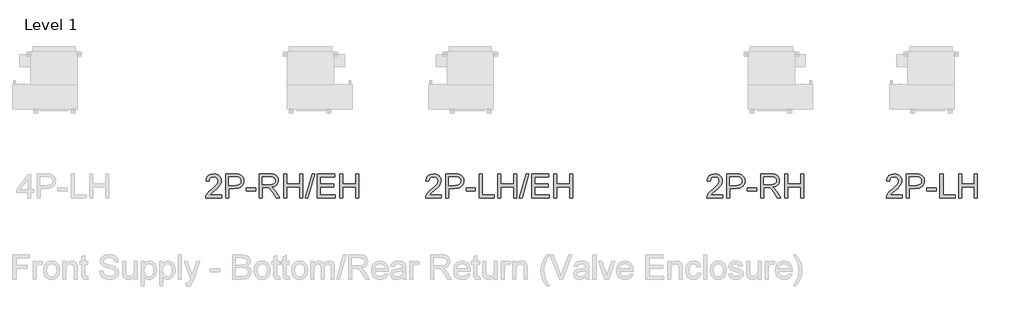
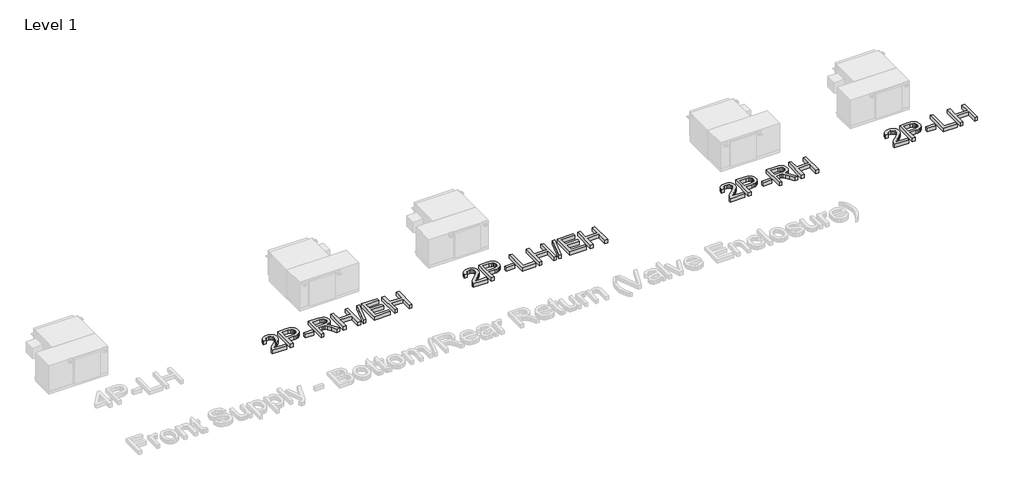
# One storey, part 5 of 5: 4 proxies.
"""IFC4 building model written with IfcOpenShell, lengths in millimetres."""

from ifc_helpers import new_model, si_unit, origin, origin_with_axes, place, context, project, spatial, polyline, outline, extrude, element, save

model = new_model("IFC4")

# Units and contexts
model_context = context("Model", 3, world=origin())
ifc_project = project(units=[si_unit("LENGTHUNIT", "METRE", prefix="MILLI")], contexts=[model_context])

# Site, building, storey
site = spatial("IfcSite", under=ifc_project)
building = spatial("IfcBuilding", under=site)
storey = spatial("IfcBuildingStorey", under=building, Name="Level 1", Elevation=0.0)

# Proxies
placement = place(None, origin())
element("IfcBuildingElementProxy", 1, Name="24\" Arial", ObjectType="24\" Arial", at=placement, inside=storey, context=model_context, shape_type="SweptSolid", body=[
    extrude(outline(polyline([(-7419.2309916, -9425.9108404), (-7419.2309916, -9463.9817271), (-7619.103147, -9463.9817271), (-7615.013501, -9437.7336353), (-7605.6259044, -9417.2203425), (-7591.8884116, -9397.3204967), (-7572.0164497, -9376.4911859), (-7544.2254459, -9353.1894981), (-7503.1430925, -9316.6987018), (-7478.4936805, -9289.7628059), (-7466.1689745, -9267.9017889), (-7462.0607392, -9246.6356295), (-7465.9366082, -9227.5723022), (-7477.5642155, -9211.7249238), (-7495.4378276, -9201.0453708), (-7518.0517113, -9197.4855198), (-7541.7995423, -9200.961719), (-7560.2494227, -9211.3903164), (-7572.1558694, -9227.9533828), (-7576.2733994, -9249.8329891), (-7614.3442862, -9245.0741283), (-7611.0702457, -9225.4205907), (-7605.1146987, -9208.2487246), (-7596.4776451, -9193.5585302), (-7585.1590849, -9181.3500073), (-7571.4192684, -9171.7532811), (-7555.5184458, -9164.8984766), (-7517.2337821, -9159.4146331), (-7496.8297015, -9160.9389557), (-7478.6702789, -9165.5119235), (-7462.7555143, -9173.1335366), (-7449.0854076, -9183.8037949), (-7438.1061022, -9196.7326532), (-7430.2637412, -9211.1300662), (-7425.5583246, -9226.9960339), (-7423.9898524, -9244.3305563), (-7425.6814787, -9262.5387758), (-7430.7563577, -9280.4309772), (-7439.7628736, -9298.6299021), (-7453.2494109, -9317.758292), (-7474.7479365, -9340.5952472), (-7507.7904176, -9369.9198682), (-7551.5868088, -9406.5407896), (-7568.7633222, -9425.9108404), (-7419.2309916, -9425.9108404)])), origin_with_axes(), (0.0, 0.0, 1.0), 50.8),
    extrude(outline(polyline([(-7366.8835223, -9463.9817271), (-7366.8835223, -9159.4146331), (-7254.0092916, -9159.4146331), (-7208.5026848, -9162.3145639), (-7188.2124636, -9167.7333449), (-7171.5099774, -9176.5539678), (-7158.0606187, -9189.1761026), (-7147.5297802, -9205.9994193), (-7140.7260963, -9225.8434972), (-7138.4582017, -9247.5279159), (-7139.9894953, -9266.2241045), (-7144.5833761, -9283.4238545), (-7152.2398441, -9299.1271659), (-7162.9588993, -9313.3340385), (-7177.6746541, -9325.1103602), (-7197.3212207, -9333.5220185), (-7221.8985992, -9338.5690135), (-7251.4067896, -9340.2513452), (-7328.8126355, -9340.2513452), (-7328.8126355, -9463.9817271), (-7366.8835223, -9463.9817271)]), holes=[polyline([(-7328.8126355, -9302.1804584), (-7249.1760736, -9302.1804584), (-7215.4179044, -9298.68567), (-7193.1107442, -9288.2013047), (-7180.6745024, -9271.377988), (-7176.5290885, -9248.8663455), (-7178.9735814, -9231.7641893), (-7186.3070604, -9217.3388924), (-7197.6186495, -9206.4827411), (-7211.9974732, -9200.0880218), (-7250.06836, -9197.4855198), (-7328.8126355, -9197.4855198), (-7328.8126355, -9302.1804584)])]), origin_with_axes(), (0.0, 0.0, 1.0), 50.8),
    extrude(outline(polyline([(-7109.9050366, -9373.5633711), (-7109.9050366, -9335.4924843), (-6990.9335155, -9335.4924843), (-6990.9335155, -9373.5633711), (-7109.9050366, -9373.5633711)])), origin_with_axes(), (0.0, 0.0, 1.0), 50.8),
    extrude(outline(polyline([(-6943.3449071, -9463.9817271), (-6943.3449071, -9159.4146331), (-6812.1044478, -9159.4146331), (-6776.8312508, -9161.4687507), (-6751.1687219, -9167.6311037), (-6732.412118, -9179.0077554), (-6717.8566959, -9196.7047692), (-6708.5155726, -9218.6494381), (-6705.4018648, -9242.769055), (-6710.5603956, -9272.7721855), (-6726.035988, -9297.6446692), (-6737.7588654, -9307.7804851), (-6752.2933745, -9315.8807726), (-6789.7972876, -9325.9747626), (-6768.1593422, -9342.2589896), (-6737.3011039, -9381.4452344), (-6686.5151359, -9463.9817271), (-6730.7576703, -9463.9817271), (-6770.3900582, -9400.8524637), (-6799.0175805, -9359.0637169), (-6819.1312033, -9339.3218802), (-6837.2371817, -9332.0720531), (-6859.3212703, -9330.7336235), (-6905.2740203, -9330.7336235), (-6905.2740203, -9463.9817271), (-6943.3449071, -9463.9817271)]), holes=[polyline([(-6905.2740203, -9292.6627367), (-6820.0606683, -9292.6627367), (-6795.5878546, -9291.3150125), (-6776.5988845, -9287.2718397), (-6762.3037127, -9280.2636735), (-6751.9122939, -9270.0209691), (-6745.5826372, -9257.6312005), (-6743.4727516, -9244.1818419), (-6747.4973351, -9225.611131), (-6759.5710855, -9210.6467443), (-6780.3446285, -9200.775826), (-6810.4685894, -9197.4855198), (-6905.2740203, -9197.4855198), (-6905.2740203, -9292.6627367)])]), origin_with_axes(), (0.0, 0.0, 1.0), 50.8),
    extrude(outline(polyline([(-6638.777813, -9463.9817271), (-6638.777813, -9159.4146331), (-6600.7069262, -9159.4146331), (-6600.7069262, -9283.145015), (-6438.9056575, -9283.145015), (-6438.9056575, -9159.4146331), (-6400.8347708, -9159.4146331), (-6400.8347708, -9463.9817271), (-6438.9056575, -9463.9817271), (-6438.9056575, -9321.2159018), (-6600.7069262, -9321.2159018), (-6600.7069262, -9463.9817271), (-6638.777813, -9463.9817271)])), origin_with_axes(), (0.0, 0.0, 1.0), 50.8),
    extrude(outline(polyline([(-6367.5227448, -9463.9817271), (-6281.8632496, -9159.4146331), (-6247.5102229, -9159.4146331), (-6333.1697181, -9463.9817271), (-6367.5227448, -9463.9817271)])), origin_with_axes(), (0.0, 0.0, 1.0), 50.8),
    extrude(outline(polyline([(-6215.2391978, -9463.9817271), (-6215.2391978, -9159.4146331), (-5996.331599, -9159.4146331), (-5996.331599, -9197.4855198), (-6177.1683111, -9197.4855198), (-6177.1683111, -9287.9038759), (-6005.8493206, -9287.9038759), (-6005.8493206, -9325.9747626), (-6177.1683111, -9325.9747626), (-6177.1683111, -9425.9108404), (-5991.5727381, -9425.9108404), (-5991.5727381, -9463.9817271), (-6215.2391978, -9463.9817271)])), origin_with_axes(), (0.0, 0.0, 1.0), 50.8),
    extrude(outline(polyline([(-5934.466408, -9463.9817271), (-5934.466408, -9159.4146331), (-5896.3955212, -9159.4146331), (-5896.3955212, -9283.145015), (-5734.5942525, -9283.145015), (-5734.5942525, -9159.4146331), (-5696.5233657, -9159.4146331), (-5696.5233657, -9463.9817271), (-5734.5942525, -9463.9817271), (-5734.5942525, -9321.2159018), (-5896.3955212, -9321.2159018), (-5896.3955212, -9463.9817271), (-5934.466408, -9463.9817271)])), origin_with_axes(), (0.0, 0.0, 1.0), 50.8),
])
element("IfcBuildingElementProxy", 2, Name="24\" Arial", ObjectType="24\" Arial", at=placement, inside=storey, context=model_context, shape_type="SweptSolid", body=[
    extrude(outline(polyline([(-4655.5785874, -9425.9108404), (-4655.5785874, -9463.9817271), (-4855.4507429, -9463.9817271), (-4851.3610969, -9437.7336353), (-4841.9735003, -9417.2203425), (-4828.2360075, -9397.3204967), (-4808.3640456, -9376.4911859), (-4780.5730418, -9353.1894981), (-4739.4906884, -9316.6987018), (-4714.8412764, -9289.7628059), (-4702.5165704, -9267.9017889), (-4698.408335, -9246.6356295), (-4702.2842041, -9227.5723022), (-4713.9118114, -9211.7249238), (-4731.7854235, -9201.0453708), (-4754.3993072, -9197.4855198), (-4778.1471381, -9200.961719), (-4796.5970186, -9211.3903164), (-4808.5034653, -9227.9533828), (-4812.6209953, -9249.8329891), (-4850.6918821, -9245.0741283), (-4847.4178416, -9225.4205907), (-4841.4622945, -9208.2487246), (-4832.8252409, -9193.5585302), (-4821.5066808, -9181.3500073), (-4807.7668643, -9171.7532811), (-4791.8660417, -9164.8984766), (-4753.581378, -9159.4146331), (-4733.1772974, -9160.9389557), (-4715.0178747, -9165.5119235), (-4699.1031101, -9173.1335366), (-4685.4330035, -9183.8037949), (-4674.4536981, -9196.7326532), (-4666.6113371, -9211.1300662), (-4661.9059205, -9226.9960339), (-4660.3374483, -9244.3305563), (-4662.0290746, -9262.5387758), (-4667.1039535, -9280.4309772), (-4676.1104695, -9298.6299021), (-4689.5970068, -9317.758292), (-4711.0955324, -9340.5952472), (-4744.1380135, -9369.9198682), (-4787.9344047, -9406.5407896), (-4805.110918, -9425.9108404), (-4655.5785874, -9425.9108404)])), origin_with_axes(), (0.0, 0.0, 1.0), 50.8),
    extrude(outline(polyline([(-4603.2311181, -9463.9817271), (-4603.2311181, -9159.4146331), (-4490.3568875, -9159.4146331), (-4444.8502806, -9162.3145639), (-4424.5600595, -9167.7333449), (-4407.8575733, -9176.5539678), (-4394.4082146, -9189.1761026), (-4383.8773761, -9205.9994193), (-4377.0736922, -9225.8434972), (-4374.8057976, -9247.5279159), (-4376.3370912, -9266.2241045), (-4380.930972, -9283.4238545), (-4388.58744, -9299.1271659), (-4399.3064952, -9313.3340385), (-4414.02225, -9325.1103602), (-4433.6688166, -9333.5220185), (-4458.2461951, -9338.5690135), (-4487.7543855, -9340.2513452), (-4565.1602314, -9340.2513452), (-4565.1602314, -9463.9817271), (-4603.2311181, -9463.9817271)]), holes=[polyline([(-4565.1602314, -9302.1804584), (-4485.5236694, -9302.1804584), (-4451.7655003, -9298.68567), (-4429.4583401, -9288.2013047), (-4417.0220983, -9271.377988), (-4412.8766843, -9248.8663455), (-4415.3211773, -9231.7641893), (-4422.6546562, -9217.3388924), (-4433.9662454, -9206.4827411), (-4448.3450691, -9200.0880218), (-4486.4159558, -9197.4855198), (-4565.1602314, -9197.4855198), (-4565.1602314, -9302.1804584)])]), origin_with_axes(), (0.0, 0.0, 1.0), 50.8),
    extrude(outline(polyline([(-4346.2526325, -9373.5633711), (-4346.2526325, -9335.4924843), (-4227.2811114, -9335.4924843), (-4227.2811114, -9373.5633711), (-4346.2526325, -9373.5633711)])), origin_with_axes(), (0.0, 0.0, 1.0), 50.8),
    extrude(outline(polyline([(-4179.692503, -9463.9817271), (-4179.692503, -9159.4146331), (-4141.6216162, -9159.4146331), (-4141.6216162, -9425.9108404), (-3989.3380692, -9425.9108404), (-3989.3380692, -9463.9817271), (-4179.692503, -9463.9817271)])), origin_with_axes(), (0.0, 0.0, 1.0), 50.8),
    extrude(outline(polyline([(-3946.5083216, -9463.9817271), (-3946.5083216, -9159.4146331), (-3908.4374348, -9159.4146331), (-3908.4374348, -9283.145015), (-3746.6361661, -9283.145015), (-3746.6361661, -9159.4146331), (-3708.5652793, -9159.4146331), (-3708.5652793, -9463.9817271), (-3746.6361661, -9463.9817271), (-3746.6361661, -9321.2159018), (-3908.4374348, -9321.2159018), (-3908.4374348, -9463.9817271), (-3946.5083216, -9463.9817271)])), origin_with_axes(), (0.0, 0.0, 1.0), 50.8),
    extrude(outline(polyline([(-3675.2532534, -9463.9817271), (-3589.5937582, -9159.4146331), (-3555.2407315, -9159.4146331), (-3640.9002267, -9463.9817271), (-3675.2532534, -9463.9817271)])), origin_with_axes(), (0.0, 0.0, 1.0), 50.8),
    extrude(outline(polyline([(-3522.9697064, -9463.9817271), (-3522.9697064, -9159.4146331), (-3304.0621075, -9159.4146331), (-3304.0621075, -9197.4855198), (-3484.8988196, -9197.4855198), (-3484.8988196, -9287.9038759), (-3313.5798292, -9287.9038759), (-3313.5798292, -9325.9747626), (-3484.8988196, -9325.9747626), (-3484.8988196, -9425.9108404), (-3299.3032467, -9425.9108404), (-3299.3032467, -9463.9817271), (-3522.9697064, -9463.9817271)])), origin_with_axes(), (0.0, 0.0, 1.0), 50.8),
    extrude(outline(polyline([(-3242.1969165, -9463.9817271), (-3242.1969165, -9159.4146331), (-3204.1260298, -9159.4146331), (-3204.1260298, -9283.145015), (-3042.324761, -9283.145015), (-3042.324761, -9159.4146331), (-3004.2538743, -9159.4146331), (-3004.2538743, -9463.9817271), (-3042.324761, -9463.9817271), (-3042.324761, -9321.2159018), (-3204.1260298, -9321.2159018), (-3204.1260298, -9463.9817271), (-3242.1969165, -9463.9817271)])), origin_with_axes(), (0.0, 0.0, 1.0), 50.8),
])
element("IfcBuildingElementProxy", 3, Name="24\" Arial", ObjectType="24\" Arial", at=placement, inside=storey, context=model_context, shape_type="SweptSolid", body=[
    extrude(outline(polyline([(-1120.0309916, -9425.9108404), (-1120.0309916, -9463.9817271), (-1319.903147, -9463.9817271), (-1315.813501, -9437.7336353), (-1306.4259044, -9417.2203425), (-1292.6884116, -9397.3204967), (-1272.8164497, -9376.4911859), (-1245.0254459, -9353.1894981), (-1203.9430925, -9316.6987018), (-1179.2936805, -9289.7628059), (-1166.9689745, -9267.9017889), (-1162.8607392, -9246.6356295), (-1166.7366082, -9227.5723022), (-1178.3642155, -9211.7249238), (-1196.2378276, -9201.0453708), (-1218.8517113, -9197.4855198), (-1242.5995423, -9200.961719), (-1261.0494227, -9211.3903164), (-1272.9558694, -9227.9533828), (-1277.0733994, -9249.8329891), (-1315.1442862, -9245.0741283), (-1311.8702457, -9225.4205907), (-1305.9146987, -9208.2487246), (-1297.2776451, -9193.5585302), (-1285.9590849, -9181.3500073), (-1272.2192684, -9171.7532811), (-1256.3184458, -9164.8984766), (-1218.0337821, -9159.4146331), (-1197.6297015, -9160.9389557), (-1179.4702789, -9165.5119235), (-1163.5555143, -9173.1335366), (-1149.8854076, -9183.8037949), (-1138.9061022, -9196.7326532), (-1131.0637412, -9211.1300662), (-1126.3583246, -9226.9960339), (-1124.7898524, -9244.3305563), (-1126.4814787, -9262.5387758), (-1131.5563577, -9280.4309772), (-1140.5628736, -9298.6299021), (-1154.0494109, -9317.758292), (-1175.5479365, -9340.5952472), (-1208.5904176, -9369.9198682), (-1252.3868088, -9406.5407896), (-1269.5633222, -9425.9108404), (-1120.0309916, -9425.9108404)])), origin_with_axes(), (0.0, 0.0, 1.0), 50.8),
    extrude(outline(polyline([(-1067.6835223, -9463.9817271), (-1067.6835223, -9159.4146331), (-954.8092916, -9159.4146331), (-909.3026848, -9162.3145639), (-889.0124636, -9167.7333449), (-872.3099774, -9176.5539678), (-858.8606187, -9189.1761026), (-848.3297802, -9205.9994193), (-841.5260963, -9225.8434972), (-839.2582017, -9247.5279159), (-840.7894953, -9266.2241045), (-845.3833761, -9283.4238545), (-853.0398441, -9299.1271659), (-863.7588993, -9313.3340385), (-878.4746541, -9325.1103602), (-898.1212207, -9333.5220185), (-922.6985992, -9338.5690135), (-952.2067896, -9340.2513452), (-1029.6126355, -9340.2513452), (-1029.6126355, -9463.9817271), (-1067.6835223, -9463.9817271)]), holes=[polyline([(-1029.6126355, -9302.1804584), (-949.9760736, -9302.1804584), (-916.2179044, -9298.68567), (-893.9107442, -9288.2013047), (-881.4745024, -9271.377988), (-877.3290885, -9248.8663455), (-879.7735814, -9231.7641893), (-887.1070604, -9217.3388924), (-898.4186495, -9206.4827411), (-912.7974732, -9200.0880218), (-950.86836, -9197.4855198), (-1029.6126355, -9197.4855198), (-1029.6126355, -9302.1804584)])]), origin_with_axes(), (0.0, 0.0, 1.0), 50.8),
    extrude(outline(polyline([(-810.7050366, -9373.5633711), (-810.7050366, -9335.4924843), (-691.7335155, -9335.4924843), (-691.7335155, -9373.5633711), (-810.7050366, -9373.5633711)])), origin_with_axes(), (0.0, 0.0, 1.0), 50.8),
    extrude(outline(polyline([(-644.1449071, -9463.9817271), (-644.1449071, -9159.4146331), (-512.9044478, -9159.4146331), (-477.6312508, -9161.4687507), (-451.9687219, -9167.6311037), (-433.212118, -9179.0077554), (-418.6566959, -9196.7047692), (-409.3155726, -9218.6494381), (-406.2018648, -9242.769055), (-411.3603956, -9272.7721855), (-426.835988, -9297.6446692), (-438.5588654, -9307.7804851), (-453.0933745, -9315.8807726), (-490.5972876, -9325.9747626), (-468.9593422, -9342.2589896), (-438.1011039, -9381.4452344), (-387.3151359, -9463.9817271), (-431.5576703, -9463.9817271), (-471.1900582, -9400.8524637), (-499.8175805, -9359.0637169), (-519.9312033, -9339.3218802), (-538.0371817, -9332.0720531), (-560.1212703, -9330.7336235), (-606.0740203, -9330.7336235), (-606.0740203, -9463.9817271), (-644.1449071, -9463.9817271)]), holes=[polyline([(-606.0740203, -9292.6627367), (-520.8606683, -9292.6627367), (-496.3878546, -9291.3150125), (-477.3988845, -9287.2718397), (-463.1037127, -9280.2636735), (-452.7122939, -9270.0209691), (-446.3826372, -9257.6312005), (-444.2727516, -9244.1818419), (-448.2973351, -9225.611131), (-460.3710855, -9210.6467443), (-481.1446285, -9200.775826), (-511.2685894, -9197.4855198), (-606.0740203, -9197.4855198), (-606.0740203, -9292.6627367)])]), origin_with_axes(), (0.0, 0.0, 1.0), 50.8),
    extrude(outline(polyline([(-339.577813, -9463.9817271), (-339.577813, -9159.4146331), (-301.5069262, -9159.4146331), (-301.5069262, -9283.145015), (-139.7056575, -9283.145015), (-139.7056575, -9159.4146331), (-101.6347708, -9159.4146331), (-101.6347708, -9463.9817271), (-139.7056575, -9463.9817271), (-139.7056575, -9321.2159018), (-301.5069262, -9321.2159018), (-301.5069262, -9463.9817271), (-339.577813, -9463.9817271)])), origin_with_axes(), (0.0, 0.0, 1.0), 50.8),
])
element("IfcBuildingElementProxy", 4, Name="24\" Arial", ObjectType="24\" Arial", at=placement, inside=storey, context=model_context, shape_type="SweptSolid", body=[
    extrude(outline(polyline([(1135.6214126, -9425.9108404), (1135.6214126, -9463.9817271), (935.7492571, -9463.9817271), (939.8389031, -9437.7336353), (949.2264997, -9417.2203425), (962.9639925, -9397.3204967), (982.8359544, -9376.4911859), (1010.6269582, -9353.1894981), (1051.7093116, -9316.6987018), (1076.3587236, -9289.7628059), (1088.6834296, -9267.9017889), (1092.791665, -9246.6356295), (1088.9157959, -9227.5723022), (1077.2881886, -9211.7249238), (1059.4145765, -9201.0453708), (1036.8006928, -9197.4855198), (1013.0528619, -9200.961719), (994.6029814, -9211.3903164), (982.6965347, -9227.9533828), (978.5790047, -9249.8329891), (940.5081179, -9245.0741283), (943.7821584, -9225.4205907), (949.7377055, -9208.2487246), (958.3747591, -9193.5585302), (969.6933192, -9181.3500073), (983.4331357, -9171.7532811), (999.3339583, -9164.8984766), (1037.618622, -9159.4146331), (1058.0227026, -9160.9389557), (1076.1821253, -9165.5119235), (1092.0968899, -9173.1335366), (1105.7669965, -9183.8037949), (1116.7463019, -9196.7326532), (1124.5886629, -9211.1300662), (1129.2940795, -9226.9960339), (1130.8625517, -9244.3305563), (1129.1709254, -9262.5387758), (1124.0960465, -9280.4309772), (1115.0895305, -9298.6299021), (1101.6029932, -9317.758292), (1080.1044676, -9340.5952472), (1047.0619865, -9369.9198682), (1003.2655953, -9406.5407896), (986.089082, -9425.9108404), (1135.6214126, -9425.9108404)])), origin_with_axes(), (0.0, 0.0, 1.0), 50.8),
    extrude(outline(polyline([(1187.9688819, -9463.9817271), (1187.9688819, -9159.4146331), (1300.8431125, -9159.4146331), (1346.3497194, -9162.3145639), (1366.6399405, -9167.7333449), (1383.3424267, -9176.5539678), (1396.7917854, -9189.1761026), (1407.3226239, -9205.9994193), (1414.1263078, -9225.8434972), (1416.3942024, -9247.5279159), (1414.8629088, -9266.2241045), (1410.269028, -9283.4238545), (1402.61256, -9299.1271659), (1391.8935048, -9313.3340385), (1377.17775, -9325.1103602), (1357.5311834, -9333.5220185), (1332.9538049, -9338.5690135), (1303.4456145, -9340.2513452), (1226.0397686, -9340.2513452), (1226.0397686, -9463.9817271), (1187.9688819, -9463.9817271)]), holes=[polyline([(1226.0397686, -9302.1804584), (1305.6763306, -9302.1804584), (1339.4344997, -9298.68567), (1361.7416599, -9288.2013047), (1374.1779017, -9271.377988), (1378.3233157, -9248.8663455), (1375.8788227, -9231.7641893), (1368.5453438, -9217.3388924), (1357.2337546, -9206.4827411), (1342.8549309, -9200.0880218), (1304.7840442, -9197.4855198), (1226.0397686, -9197.4855198), (1226.0397686, -9302.1804584)])]), origin_with_axes(), (0.0, 0.0, 1.0), 50.8),
    extrude(outline(polyline([(1444.9473675, -9373.5633711), (1444.9473675, -9335.4924843), (1563.9188886, -9335.4924843), (1563.9188886, -9373.5633711), (1444.9473675, -9373.5633711)])), origin_with_axes(), (0.0, 0.0, 1.0), 50.8),
    extrude(outline(polyline([(1611.507497, -9463.9817271), (1611.507497, -9159.4146331), (1649.5783838, -9159.4146331), (1649.5783838, -9425.9108404), (1801.8619308, -9425.9108404), (1801.8619308, -9463.9817271), (1611.507497, -9463.9817271)])), origin_with_axes(), (0.0, 0.0, 1.0), 50.8),
    extrude(outline(polyline([(1844.6916784, -9463.9817271), (1844.6916784, -9159.4146331), (1882.7625652, -9159.4146331), (1882.7625652, -9283.145015), (2044.5638339, -9283.145015), (2044.5638339, -9159.4146331), (2082.6347207, -9159.4146331), (2082.6347207, -9463.9817271), (2044.5638339, -9463.9817271), (2044.5638339, -9321.2159018), (1882.7625652, -9321.2159018), (1882.7625652, -9463.9817271), (1844.6916784, -9463.9817271)])), origin_with_axes(), (0.0, 0.0, 1.0), 50.8),
])

save(model, "model.ifc")
